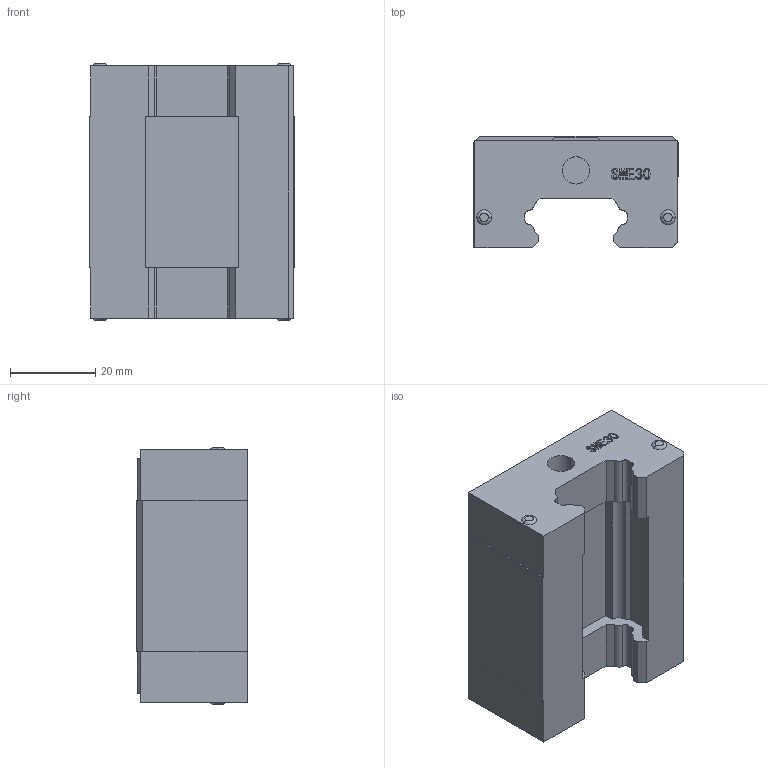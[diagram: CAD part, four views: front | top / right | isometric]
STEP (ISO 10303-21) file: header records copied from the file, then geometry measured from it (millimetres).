
FILE_DESCRIPTION (( 'STEP AP203' ), '1' );
FILE_NAME ('SME30BS.stp', '2019-09-21T08:39:26', ( 'pgos' ), ( '' ), 'SwSTEP 2.0', 'SolidWorks 2014', '' );
FILE_SCHEMA (( 'CONFIG_CONTROL_DESIGN' ));
Length unit declared in the file: millimetre
Products named in the file (1): SME30BS
Bounding box: 48 x 26 x 60.1 mm (x, y, z)
Volume: 52498.2 mm3; surface area: 13625.5 mm2
Topology: 1 solids, 1 shells, 179 faces, 481 edges, 318 vertices
Faces by surface type: plane 119, cylinder 32, bspline 20, torus 8
Entity records: 7636 total; most frequent: CARTESIAN_POINT 3119, ORIENTED_EDGE 962, DIRECTION 849, EDGE_CURVE 481, VECTOR 353, LINE 353, VERTEX_POINT 318, AXIS2_PLACEMENT_3D 248
